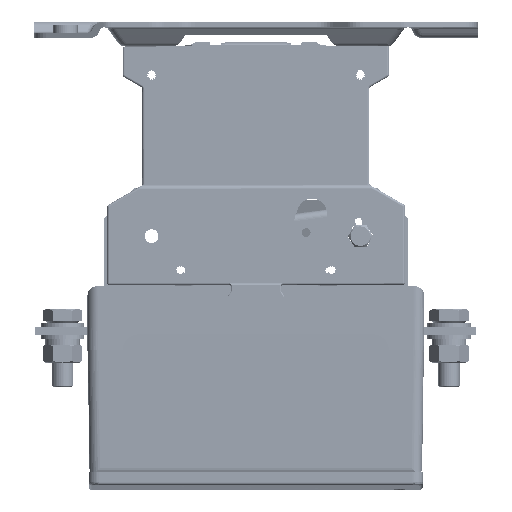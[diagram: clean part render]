
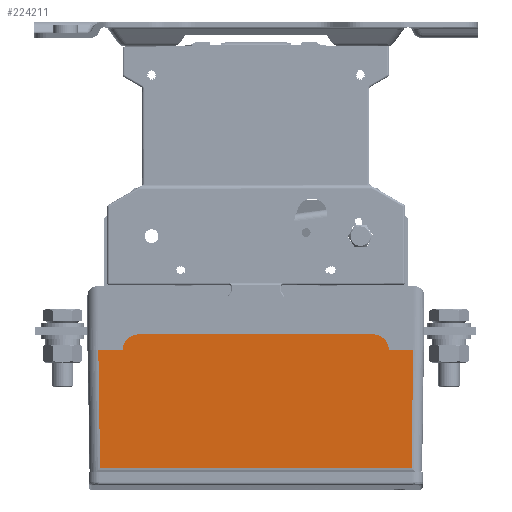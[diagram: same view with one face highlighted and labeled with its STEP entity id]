
A CAD part, front view. The second image highlights one B-rep face of the part: STEP entity #224211.
In plain terms, the highlighted planar face has unit normal (0, -1, -0.022) as drawn and (-1, 0, 0.022) by its records, which use the part's own axes.
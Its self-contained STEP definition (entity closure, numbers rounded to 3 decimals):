
#204951=CARTESIAN_POINT('',(-73.,134.,-67.5));
#204952=CARTESIAN_POINT('',(-73.,134.574,-67.5));
#204953=CARTESIAN_POINT('',(-72.997,135.689,
-67.371));
#204954=CARTESIAN_POINT('',(-72.985,137.291,
-66.81));
#204955=CARTESIAN_POINT('',(-72.965,138.718,
-65.91));
#204956=CARTESIAN_POINT('',(-72.938,139.911,
-64.717));
#204957=CARTESIAN_POINT('',(-72.906,140.81,
-63.291));
#204958=CARTESIAN_POINT('',(-72.871,141.372,
-61.688));
#204959=CARTESIAN_POINT('',(-72.846,141.5,
-60.574));
#204960=CARTESIAN_POINT('',(-72.833,141.5,
-60.));
#204962=DIRECTION('',(0.022,-0.015,1.));
#204963=VECTOR('',#204962,55.131);
#204964=CARTESIAN_POINT('',(-72.833,152.89,
-60.));
#204965=LINE('',#204964,#204963);
#204966=DIRECTION('',(-0.022,-0.015,
-1.));
#204967=VECTOR('',#204966,55.131);
#204968=CARTESIAN_POINT('',(-71.609,5.926,
-4.889));
#204969=LINE('',#204968,#204967);
#204970=CARTESIAN_POINT('',(-72.833,16.5,
-60.));
#204971=CARTESIAN_POINT('',(-72.846,16.5,
-60.574));
#204972=CARTESIAN_POINT('',(-72.871,16.628,
-61.688));
#204973=CARTESIAN_POINT('',(-72.906,17.19,
-63.291));
#204974=CARTESIAN_POINT('',(-72.938,18.089,
-64.717));
#204975=CARTESIAN_POINT('',(-72.965,19.282,
-65.91));
#204976=CARTESIAN_POINT('',(-72.985,20.709,
-66.81));
#204977=CARTESIAN_POINT('',(-72.997,22.311,
-67.371));
#204978=CARTESIAN_POINT('',(-73.,23.426,-67.5));
#204979=CARTESIAN_POINT('',(-73.,24.,-67.5));
#205013=DIRECTION('',(0.,-1.,0.));
#205014=VECTOR('',#205013,110.);
#205015=CARTESIAN_POINT('',(-73.,134.,-67.5));
#205016=LINE('',#205015,#205014);
#205049=DIRECTION('',(0.,-1.,0.));
#205050=VECTOR('',#205049,11.39);
#205051=CARTESIAN_POINT('',(-72.833,16.5,
-60.));
#205052=LINE('',#205051,#205050);
#208041=DIRECTION('',(0.,1.,0.));
#208042=VECTOR('',#208041,146.147);
#208043=CARTESIAN_POINT('',(-71.609,5.926,
-4.889));
#208044=LINE('',#208043,#208042);
#213089=DIRECTION('',(0.,-1.,0.));
#213090=VECTOR('',#213089,11.39);
#213091=CARTESIAN_POINT('',(-72.833,152.89,
-60.));
#213092=LINE('',#213091,#213090);
#219935=VERTEX_POINT('',#204951);
#219936=VERTEX_POINT('',#204960);
#219937=CARTESIAN_POINT('',(-72.833,152.89,
-60.));
#219938=VERTEX_POINT('',#219937);
#219939=CARTESIAN_POINT('',(-71.609,152.074,
-4.889));
#219940=VERTEX_POINT('',#219939);
#219941=CARTESIAN_POINT('',(-71.609,5.926,
-4.889));
#219942=VERTEX_POINT('',#219941);
#219943=CARTESIAN_POINT('',(-72.833,5.11,
-60.));
#219944=VERTEX_POINT('',#219943);
#219945=CARTESIAN_POINT('',(-72.833,16.5,
-60.));
#219946=VERTEX_POINT('',#219945);
#219947=VERTEX_POINT('',#204979);
#224188=CARTESIAN_POINT('',(-73.,0.,-67.5));
#224189=DIRECTION('',(-1.,0.,0.022));
#224190=DIRECTION('',(0.022,0.,1.));
#224191=AXIS2_PLACEMENT_3D('',#224188,#224189,#224190);
#224192=PLANE('',#224191);
#224194=ORIENTED_EDGE('',*,*,#224193,.T.);
#224196=ORIENTED_EDGE('',*,*,#224195,.F.);
#224198=ORIENTED_EDGE('',*,*,#224197,.T.);
#224200=ORIENTED_EDGE('',*,*,#224199,.F.);
#224202=ORIENTED_EDGE('',*,*,#224201,.T.);
#224204=ORIENTED_EDGE('',*,*,#224203,.F.);
#224206=ORIENTED_EDGE('',*,*,#224205,.T.);
#224208=ORIENTED_EDGE('',*,*,#224207,.F.);
#224209=EDGE_LOOP('',(#224194,#224196,#224198,#224200,#224202,#224204,#224206,
#224208));
#224210=FACE_OUTER_BOUND('',#224209,.F.);
#224211=ADVANCED_FACE('',(#224210),#224192,.T.);
#204961=B_SPLINE_CURVE_WITH_KNOTS('',3,(#204951,#204952,#204953,#204954,#204955,
#204956,#204957,#204958,#204959,#204960),.UNSPECIFIED.,.F.,.F.,(4,1,1,1,1,1,1,
4),(0.,0.143,0.286,0.429,
0.571,0.714,0.857,1.),.UNSPECIFIED.);
#204980=B_SPLINE_CURVE_WITH_KNOTS('',3,(#204970,#204971,#204972,#204973,#204974,
#204975,#204976,#204977,#204978,#204979),.UNSPECIFIED.,.F.,.F.,(4,1,1,1,1,1,1,
4),(0.,0.143,0.286,0.429,
0.571,0.714,0.857,1.),.UNSPECIFIED.);
#224193=EDGE_CURVE('',#219935,#219936,#204961,.T.);
#224195=EDGE_CURVE('',#219938,#219936,#213092,.T.);
#224197=EDGE_CURVE('',#219938,#219940,#204965,.T.);
#224199=EDGE_CURVE('',#219942,#219940,#208044,.T.);
#224201=EDGE_CURVE('',#219942,#219944,#204969,.T.);
#224203=EDGE_CURVE('',#219946,#219944,#205052,.T.);
#224205=EDGE_CURVE('',#219946,#219947,#204980,.T.);
#224207=EDGE_CURVE('',#219935,#219947,#205016,.T.);
